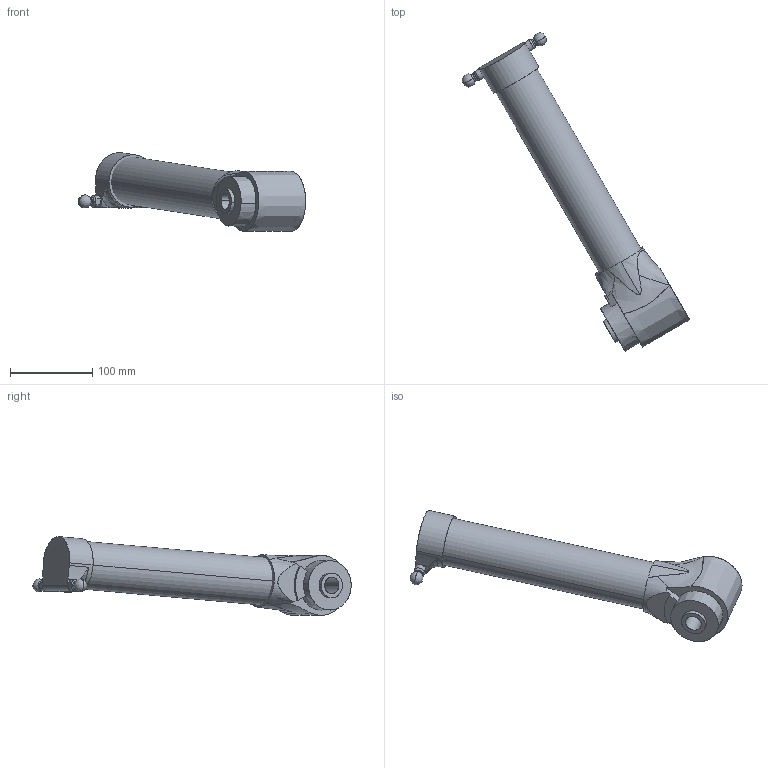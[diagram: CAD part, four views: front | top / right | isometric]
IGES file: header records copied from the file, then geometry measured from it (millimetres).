
Start section: SolidWorks IGES file using analytic representation for surfaces
Global section: file name: C:\Users\SELUHAA\Desktop\Work items\545792\IGES\IRB360_X-1130-WDS-4D_rev03_IGES_J\IRB360_X-1130-WDS-4D_rev03_UA3_CAD.IGS; native system: SolidWorks 2022; preprocessor: SolidWorks 2022; author: SELUHAA; date: 231204.112135; units: millimetre
Bounding box: 276.51 x 387 x 95.75 mm (x, y, z)
Surface area: 128597.9 mm2 (no closed solid volume)
Topology: 0 solids, 0 shells, 86 faces, 1907 edges, 1905 vertices
Faces by surface type: revolution 44, bspline 42
